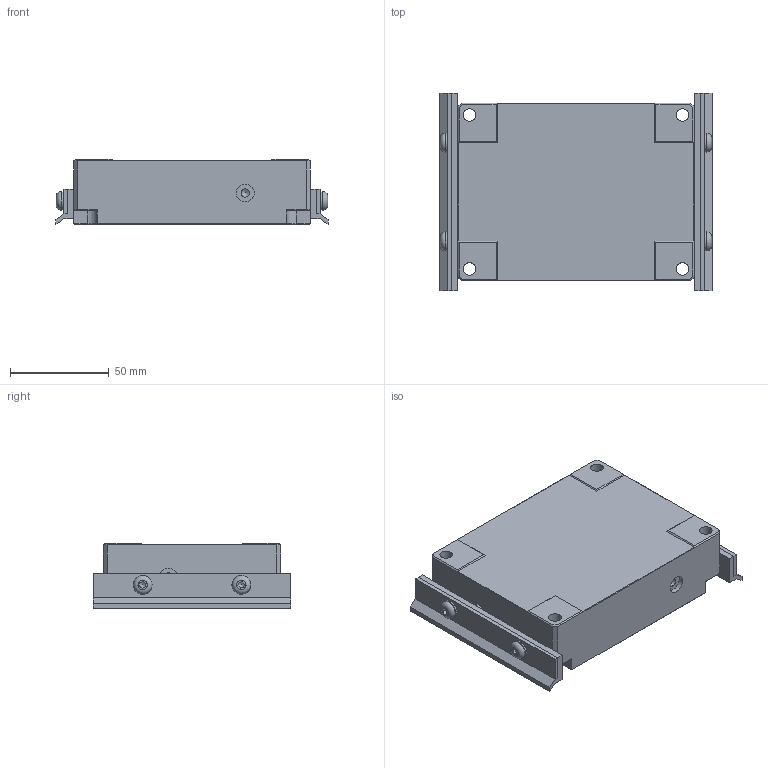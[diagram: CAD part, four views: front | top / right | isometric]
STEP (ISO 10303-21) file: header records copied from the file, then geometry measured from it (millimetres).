
FILE_DESCRIPTION(/* description */ ('Assieme'),/* implementation_level */ '2;1');
FILE_NAME(/* name */ 'C:\VAULT\ARCHIVIO\MAGER\PATTINI\CARTELLA COSTRUZIONE PATTINI HRA\HRA2010\WF10100H3300_AIRPAD HRA-2010FAW.stp',/* time_stamp */ '2021-02-22T11:00:11+01:00',/* author */ ('Roberto Cucit'),/* organization */ (''),/* preprocessor_version */ 'ST-DEVELOPER v17',/* originating_system */ 'Autodesk Inventor 2018',/* authorisation */ '');
FILE_SCHEMA (('AUTOMOTIVE_DESIGN { 1 0 10303 214 3 1 1 }'));
Length unit declared in the file: millimetre
Products named in the file (6): WF10100H3300_AIRPAD HRA-2010FA; WLP0100H33000_AIRPAD HRA-2010FA_corpo; WL10140020000; C0101-520530; C0103-020005; W000000593100
Assembly tree (8 placements, depth 3):
  WF10100H3300_AIRPAD HRA-2010FA
    WLP0100H33000_AIRPAD HRA-2010FA_corpo
    WL10140020000  x2
      C0101-520530
      C0103-020005
      W000000593100
Bounding box: 138 x 100 x 33 mm (x, y, z)
Volume: 356328.2 mm3; surface area: 58025 mm2
Topology: 13 solids, 13 shells, 240 faces, 614 edges, 414 vertices
Faces by surface type: plane 152, cylinder 50, cone 30, torus 8
Full cylindrical faces by diameter (mm): 4.134 x8, 5 x4, 5.3 x4, 6 x8, 6.4 x4, 8.566 x6, 9 x4, 9.5 x8
Entity records: 5268 total; most frequent: DIRECTION 898, CARTESIAN_POINT 886, ORIENTED_EDGE 828, EDGE_CURVE 414, AXIS2_PLACEMENT_3D 314, VERTEX_POINT 281, LINE 270, VECTOR 270
